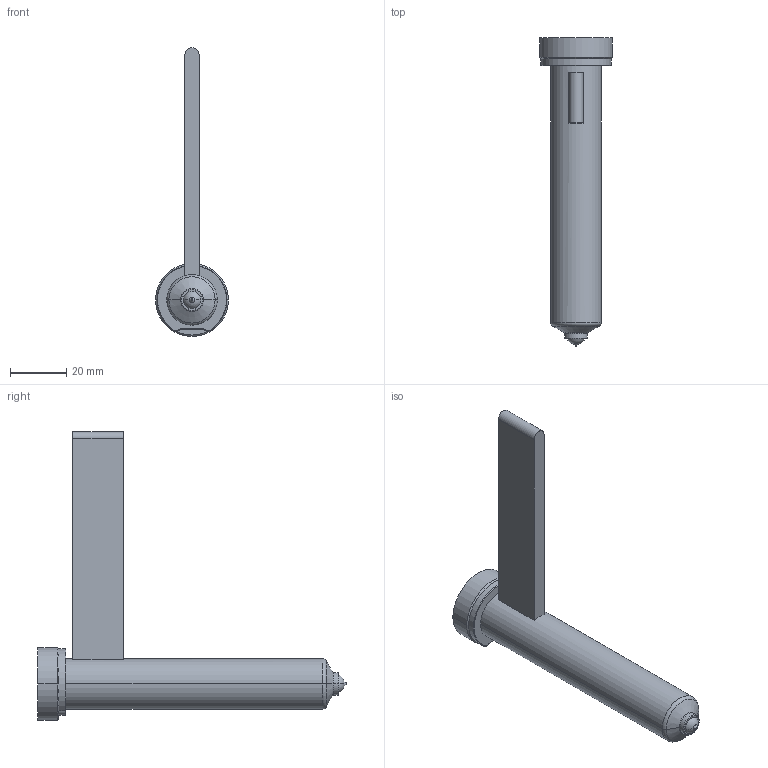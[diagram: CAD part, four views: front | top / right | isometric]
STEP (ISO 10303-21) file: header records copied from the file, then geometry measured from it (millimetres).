
FILE_DESCRIPTION((''),'2;1');
FILE_NAME('EO04_PG-BL_WR_100_COT','2024-02-19T10:59:44',('sundharh'),(''),'CREO PARAMETRIC BY PTC INC, 2023154','CREO PARAMETRIC BY PTC INC, 2023154','');
FILE_SCHEMA(('CONFIG_CONTROL_DESIGN'));
Length unit declared in the file: millimetre
Products named in the file (1): EO04_PG-BL_WR_100_COT
Bounding box: 26 x 110 x 103 mm (x, y, z)
Volume: 36465.1 mm3; surface area: 10846.2 mm2
Topology: 1 solids, 1 shells, 40 faces, 85 edges, 50 vertices
Faces by surface type: cylinder 13, plane 10, torus 9, cone 6, sphere 2
Entity records: 1195 total; most frequent: CARTESIAN_POINT 265, DIRECTION 209, ORIENTED_EDGE 170, AXIS2_PLACEMENT_3D 90, EDGE_CURVE 85, VERTEX_POINT 50, CIRCLE 50, EDGE_LOOP 43
